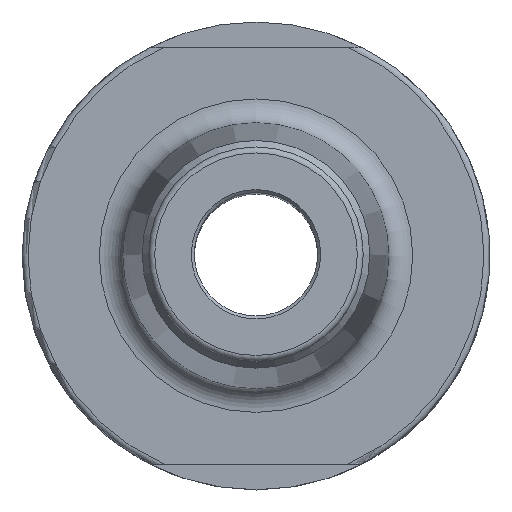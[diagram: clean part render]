
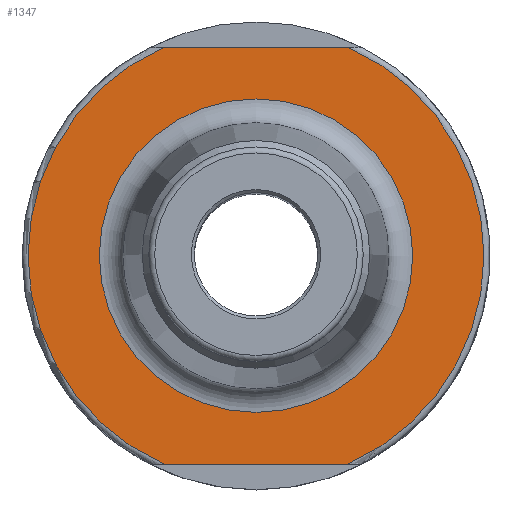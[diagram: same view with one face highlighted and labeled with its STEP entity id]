
A CAD part, top view. The second image highlights one B-rep face of the part: STEP entity #1347.
In plain terms, the highlighted planar face has unit normal (0, 0, 1).
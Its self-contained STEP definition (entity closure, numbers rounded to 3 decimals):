
#67=FACE_BOUND('',#275,.T.);
#97=CIRCLE('',#1458,38.25);
#101=CIRCLE('',#1463,38.25);
#116=CIRCLE('',#1485,26.3);
#117=CIRCLE('',#1486,26.3);
#201=FACE_OUTER_BOUND('',#274,.T.);
#274=EDGE_LOOP('',(#914,#915,#916,#917));
#275=EDGE_LOOP('',(#918,#919));
#339=LINE('',#2044,#403);
#343=LINE('',#2081,#407);
#403=VECTOR('',#1626,10.);
#407=VECTOR('',#1636,10.);
#495=VERTEX_POINT('',#2029);
#497=VERTEX_POINT('',#2043);
#501=VERTEX_POINT('',#2066);
#503=VERTEX_POINT('',#2080);
#521=VERTEX_POINT('',#2147);
#522=VERTEX_POINT('',#2148);
#643=EDGE_CURVE('',#497,#495,#339,.T.);
#650=EDGE_CURVE('',#503,#501,#343,.T.);
#656=EDGE_CURVE('',#497,#501,#97,.T.);
#660=EDGE_CURVE('',#503,#495,#101,.T.);
#678=EDGE_CURVE('',#521,#522,#116,.T.);
#679=EDGE_CURVE('',#522,#521,#117,.T.);
#914=ORIENTED_EDGE('',*,*,#643,.T.);
#915=ORIENTED_EDGE('',*,*,#660,.F.);
#916=ORIENTED_EDGE('',*,*,#650,.T.);
#917=ORIENTED_EDGE('',*,*,#656,.F.);
#918=ORIENTED_EDGE('',*,*,#678,.F.);
#919=ORIENTED_EDGE('',*,*,#679,.F.);
#1278=PLANE('',#1484);
#1347=ADVANCED_FACE('',(#201,#67),#1278,.T.);
#1458=AXIS2_PLACEMENT_3D('',#2103,#1646,#1647);
#1463=AXIS2_PLACEMENT_3D('',#2109,#1656,#1657);
#1484=AXIS2_PLACEMENT_3D('',#2146,#1701,#1702);
#1485=AXIS2_PLACEMENT_3D('',#2149,#1703,#1704);
#1486=AXIS2_PLACEMENT_3D('',#2150,#1705,#1706);
#1626=DIRECTION('',(-1.,0.,0.));
#1636=DIRECTION('',(1.,0.,0.));
#1646=DIRECTION('center_axis',(0.,0.,-1.));
#1647=DIRECTION('ref_axis',(-1.,0.,0.));
#1656=DIRECTION('center_axis',(0.,0.,-1.));
#1657=DIRECTION('ref_axis',(-1.,0.,0.));
#1701=DIRECTION('center_axis',(0.,0.,1.));
#1702=DIRECTION('ref_axis',(1.,0.,0.));
#1703=DIRECTION('center_axis',(0.,0.,1.));
#1704=DIRECTION('ref_axis',(-1.,0.,0.));
#1705=DIRECTION('center_axis',(0.,0.,1.));
#1706=DIRECTION('ref_axis',(-1.,0.,0.));
#2029=CARTESIAN_POINT('',(-15.429,35.,-137.));
#2043=CARTESIAN_POINT('',(15.429,35.,-137.));
#2044=CARTESIAN_POINT('',(20.032,35.,-137.));
#2066=CARTESIAN_POINT('',(15.429,-35.,-137.));
#2080=CARTESIAN_POINT('',(-15.429,-35.,-137.));
#2081=CARTESIAN_POINT('',(-0.117,-35.,-137.));
#2103=CARTESIAN_POINT('Origin',(0.,0.,-137.));
#2109=CARTESIAN_POINT('Origin',(0.,0.,-137.));
#2146=CARTESIAN_POINT('Origin',(22.3,0.,-137.));
#2147=CARTESIAN_POINT('',(26.3,0.,-137.));
#2148=CARTESIAN_POINT('',(-26.3,0.,-137.));
#2149=CARTESIAN_POINT('Origin',(0.,0.,-137.));
#2150=CARTESIAN_POINT('Origin',(0.,0.,-137.));
